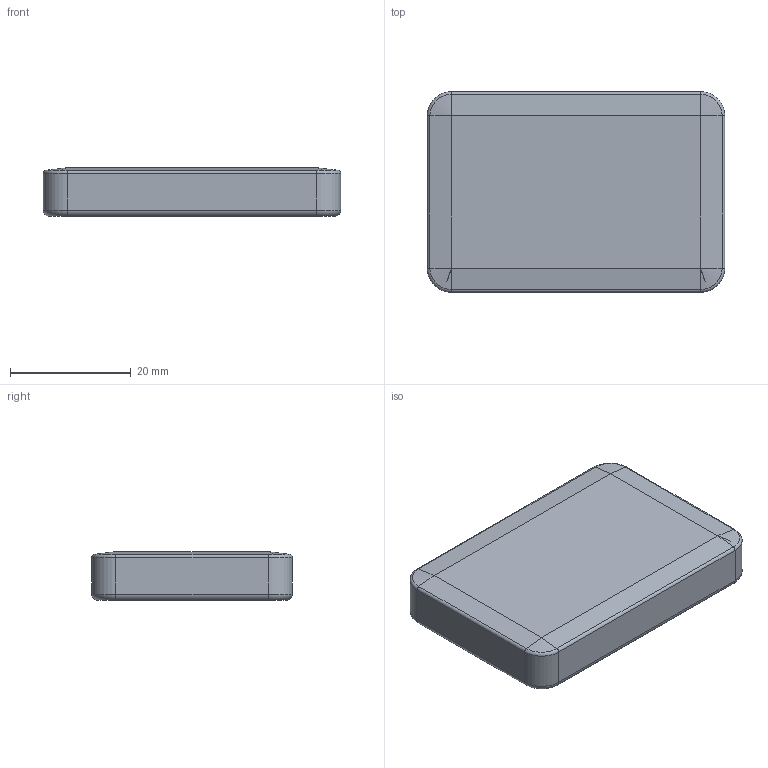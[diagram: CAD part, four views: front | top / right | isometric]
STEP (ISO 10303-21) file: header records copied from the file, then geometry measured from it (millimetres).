
FILE_DESCRIPTION(/* description */ (''),/* implementation_level */ '2;1');
FILE_NAME(/* name */ 'C:\Users\user\Documents\zactrack\Projects\zactrack PRO\Tracker PRO\TrackerPro.stp',/* time_stamp */ '2022-08-08T16:55:12+02:00',/* author */ ('user'),/* organization */ (''),/* preprocessor_version */ 'ST-DEVELOPER v16.1',/* originating_system */ 'Autodesk Inventor 2016',/* authorisation */ '');
FILE_SCHEMA (('AUTOMOTIVE_DESIGN { 1 0 10303 214 3 1 1 }'));
Length unit declared in the file: millimetre
Products named in the file (1): TrackerPro
Bounding box: 49.3 x 33.23 x 8.06 mm (x, y, z)
Volume: 12903.8 mm3; surface area: 4355.8 mm2
Topology: 1 solids, 1 shells, 34 faces, 72 edges, 36 vertices
Faces by surface type: cylinder 12, plane 10, torus 8, cone 4
Entity records: 884 total; most frequent: DIRECTION 170, CARTESIAN_POINT 139, ORIENTED_EDGE 136, EDGE_CURVE 68, AXIS2_PLACEMENT_3D 67, LINE 36, VECTOR 36, VERTEX_POINT 36
